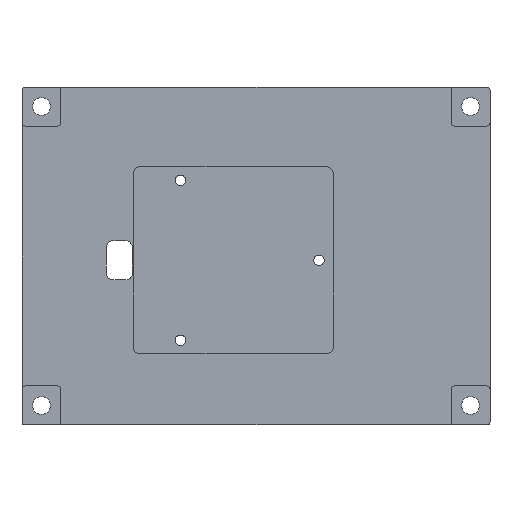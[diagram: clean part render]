
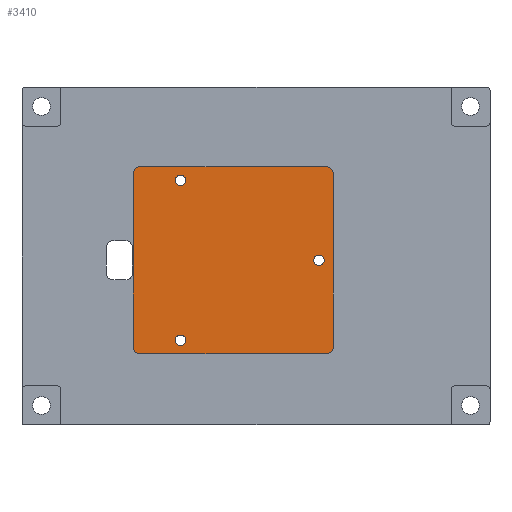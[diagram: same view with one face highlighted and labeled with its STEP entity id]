
A CAD part, front view. The second image highlights one B-rep face of the part: STEP entity #3410.
In plain terms, the highlighted planar face has unit normal (0, -1, 0).
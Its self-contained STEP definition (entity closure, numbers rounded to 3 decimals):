
#37 = EDGE_LOOP ( 'NONE', ( #4181, #782 ) ) ;
#52 = ORIENTED_EDGE ( 'NONE', *, *, #8957, .T. ) ;
#62 = DIRECTION ( 'NONE',  ( 0., 0., -1. ) ) ;
#189 = DIRECTION ( 'NONE',  ( 0., -1., 0. ) ) ;
#199 = CARTESIAN_POINT ( 'NONE',  ( 24.384, -3.78, 13.84 ) ) ;
#334 = DIRECTION ( 'NONE',  ( 0., -1., 0. ) ) ;
#448 = DIRECTION ( 'NONE',  ( 0., 0., -1. ) ) ;
#479 = EDGE_CURVE ( 'NONE', #5023, #3452, #1287, .T. ) ;
#495 = CARTESIAN_POINT ( 'NONE',  ( 47.869, -3.78, 38.722 ) ) ;
#611 = DIRECTION ( 'NONE',  ( 0., 0., 1. ) ) ;
#633 = CARTESIAN_POINT ( 'NONE',  ( 47.869, -3.78, 11.953 ) ) ;
#648 = AXIS2_PLACEMENT_3D ( 'NONE', #3180, #334, #2365 ) ;
#719 = ORIENTED_EDGE ( 'NONE', *, *, #6838, .F. ) ;
#782 = ORIENTED_EDGE ( 'NONE', *, *, #6116, .F. ) ;
#1203 = CIRCLE ( 'NONE', #9953, 0.8 ) ;
#1209 = CIRCLE ( 'NONE', #648, 1. ) ;
#1228 = VECTOR ( 'NONE', #5029, 1000. ) ;
#1232 = CARTESIAN_POINT ( 'NONE',  ( 18.1, -3.78, 39.722 ) ) ;
#1287 = CIRCLE ( 'NONE', #10976, 0.8 ) ;
#1395 = ORIENTED_EDGE ( 'NONE', *, *, #479, .F. ) ;
#1483 = VERTEX_POINT ( 'NONE', #1232 ) ;
#1491 = CARTESIAN_POINT ( 'NONE',  ( 24.384, -3.78, 36.835 ) ) ;
#1536 = EDGE_CURVE ( 'NONE', #6930, #1483, #9282, .T. ) ;
#1537 = VERTEX_POINT ( 'NONE', #4814 ) ;
#1587 = DIRECTION ( 'NONE',  ( 0., -1., 0. ) ) ;
#1647 = ORIENTED_EDGE ( 'NONE', *, *, #3834, .T. ) ;
#1743 = DIRECTION ( 'NONE',  ( 0., -1., 0. ) ) ;
#1823 = EDGE_CURVE ( 'NONE', #10105, #1844, #9471, .T. ) ;
#1844 = VERTEX_POINT ( 'NONE', #1491 ) ;
#1989 = AXIS2_PLACEMENT_3D ( 'NONE', #9283, #7406, #2918 ) ;
#2051 = CARTESIAN_POINT ( 'NONE',  ( 17.1, -3.78, 38.722 ) ) ;
#2197 = CARTESIAN_POINT ( 'NONE',  ( 46.869, -3.78, 38.722 ) ) ;
#2295 = DIRECTION ( 'NONE',  ( 0., -1., 0. ) ) ;
#2365 = DIRECTION ( 'NONE',  ( 0., 0., -1. ) ) ;
#2459 = EDGE_CURVE ( 'NONE', #1844, #10105, #8898, .T. ) ;
#2597 = EDGE_CURVE ( 'NONE', #1483, #4300, #7583, .T. ) ;
#2680 = VECTOR ( 'NONE', #611, 1000. ) ;
#2875 = CARTESIAN_POINT ( 'NONE',  ( 24.384, -3.78, 13.04 ) ) ;
#2912 = EDGE_CURVE ( 'NONE', #1537, #6930, #8644, .T. ) ;
#2918 = DIRECTION ( 'NONE',  ( 0., 0., -1. ) ) ;
#2931 = DIRECTION ( 'NONE',  ( 0., 0., -1. ) ) ;
#2936 = DIRECTION ( 'NONE',  ( 0., 0., -1. ) ) ;
#3053 = AXIS2_PLACEMENT_3D ( 'NONE', #8647, #1587, #5300 ) ;
#3180 = CARTESIAN_POINT ( 'NONE',  ( 46.869, -3.78, 11.953 ) ) ;
#3410 = ADVANCED_FACE ( 'NONE', ( #5997, #6941, #11504, #6174 ), #9584, .T. ) ;
#3422 = ORIENTED_EDGE ( 'NONE', *, *, #2597, .T. ) ;
#3452 = VERTEX_POINT ( 'NONE', #11329 ) ;
#3461 = VECTOR ( 'NONE', #10093, 1000. ) ;
#3497 = ORIENTED_EDGE ( 'NONE', *, *, #7760, .T. ) ;
#3579 = EDGE_CURVE ( 'NONE', #6438, #7136, #4173, .T. ) ;
#3820 = AXIS2_PLACEMENT_3D ( 'NONE', #10055, #189, #2931 ) ;
#3834 = EDGE_CURVE ( 'NONE', #5718, #7947, #1209, .T. ) ;
#4173 = CIRCLE ( 'NONE', #5274, 1. ) ;
#4181 = ORIENTED_EDGE ( 'NONE', *, *, #5250, .F. ) ;
#4300 = VERTEX_POINT ( 'NONE', #4691 ) ;
#4463 = CARTESIAN_POINT ( 'NONE',  ( 24.384, -3.78, 12.24 ) ) ;
#4560 = CARTESIAN_POINT ( 'NONE',  ( 45.684, -3.78, 24.537 ) ) ;
#4688 = EDGE_CURVE ( 'NONE', #7947, #1537, #8498, .T. ) ;
#4691 = CARTESIAN_POINT ( 'NONE',  ( 17.1, -3.78, 38.722 ) ) ;
#4814 = CARTESIAN_POINT ( 'NONE',  ( 47.869, -3.78, 38.722 ) ) ;
#4836 = DIRECTION ( 'NONE',  ( 0., -1., 0. ) ) ;
#4905 = AXIS2_PLACEMENT_3D ( 'NONE', #9743, #1743, #5287 ) ;
#5023 = VERTEX_POINT ( 'NONE', #4560 ) ;
#5029 = DIRECTION ( 'NONE',  ( -1., 0., 0. ) ) ;
#5100 = CARTESIAN_POINT ( 'NONE',  ( 18.1, -3.78, 11.953 ) ) ;
#5250 = EDGE_CURVE ( 'NONE', #11254, #7630, #6401, .T. ) ;
#5274 = AXIS2_PLACEMENT_3D ( 'NONE', #5100, #8869, #8695 ) ;
#5287 = DIRECTION ( 'NONE',  ( 0., 0., -1. ) ) ;
#5300 = DIRECTION ( 'NONE',  ( 0., 0., -1. ) ) ;
#5471 = CARTESIAN_POINT ( 'NONE',  ( 24.384, -3.78, 37.635 ) ) ;
#5518 = AXIS2_PLACEMENT_3D ( 'NONE', #5471, #7178, #62 ) ;
#5712 = AXIS2_PLACEMENT_3D ( 'NONE', #10239, #2295, #6775 ) ;
#5718 = VERTEX_POINT ( 'NONE', #9199 ) ;
#5909 = CARTESIAN_POINT ( 'NONE',  ( 18.1, -3.78, 39.722 ) ) ;
#5997 = FACE_BOUND ( 'NONE', #10785, .T. ) ;
#6116 = EDGE_CURVE ( 'NONE', #7630, #11254, #1203, .T. ) ;
#6174 = FACE_OUTER_BOUND ( 'NONE', #10698, .T. ) ;
#6401 = CIRCLE ( 'NONE', #4905, 0.8 ) ;
#6438 = VERTEX_POINT ( 'NONE', #6753 ) ;
#6678 = DIRECTION ( 'NONE',  ( 0., -1., 0. ) ) ;
#6708 = CARTESIAN_POINT ( 'NONE',  ( 46.869, -3.78, 39.722 ) ) ;
#6711 = ORIENTED_EDGE ( 'NONE', *, *, #2459, .F. ) ;
#6753 = CARTESIAN_POINT ( 'NONE',  ( 17.1, -3.78, 11.953 ) ) ;
#6775 = DIRECTION ( 'NONE',  ( 0., 0., -1. ) ) ;
#6838 = EDGE_CURVE ( 'NONE', #3452, #5023, #6985, .T. ) ;
#6930 = VERTEX_POINT ( 'NONE', #6708 ) ;
#6941 = FACE_BOUND ( 'NONE', #11539, .T. ) ;
#6985 = CIRCLE ( 'NONE', #3820, 0.8 ) ;
#7136 = VERTEX_POINT ( 'NONE', #9169 ) ;
#7178 = DIRECTION ( 'NONE',  ( 0., -1., 0. ) ) ;
#7287 = ORIENTED_EDGE ( 'NONE', *, *, #2912, .T. ) ;
#7314 = CARTESIAN_POINT ( 'NONE',  ( 24.384, -3.78, 38.435 ) ) ;
#7406 = DIRECTION ( 'NONE',  ( 0., -1., 0. ) ) ;
#7427 = DIRECTION ( 'NONE',  ( 0., -1., 0. ) ) ;
#7583 = CIRCLE ( 'NONE', #1989, 1. ) ;
#7630 = VERTEX_POINT ( 'NONE', #4463 ) ;
#7664 = ORIENTED_EDGE ( 'NONE', *, *, #1823, .F. ) ;
#7760 = EDGE_CURVE ( 'NONE', #7136, #5718, #10150, .T. ) ;
#7947 = VERTEX_POINT ( 'NONE', #633 ) ;
#8189 = DIRECTION ( 'NONE',  ( 0., 0., -1. ) ) ;
#8498 = LINE ( 'NONE', #495, #2680 ) ;
#8644 = CIRCLE ( 'NONE', #9581, 1. ) ;
#8647 = CARTESIAN_POINT ( 'NONE',  ( 46.869, -3.78, 38.722 ) ) ;
#8695 = DIRECTION ( 'NONE',  ( 0., 0., -1. ) ) ;
#8869 = DIRECTION ( 'NONE',  ( 0., -1., 0. ) ) ;
#8898 = CIRCLE ( 'NONE', #5518, 0.8 ) ;
#8957 = EDGE_CURVE ( 'NONE', #4300, #6438, #9881, .T. ) ;
#9169 = CARTESIAN_POINT ( 'NONE',  ( 18.1, -3.78, 10.953 ) ) ;
#9199 = CARTESIAN_POINT ( 'NONE',  ( 46.869, -3.78, 10.953 ) ) ;
#9220 = CARTESIAN_POINT ( 'NONE',  ( 18.1, -3.78, 10.953 ) ) ;
#9282 = LINE ( 'NONE', #5909, #1228 ) ;
#9283 = CARTESIAN_POINT ( 'NONE',  ( 18.1, -3.78, 38.722 ) ) ;
#9471 = CIRCLE ( 'NONE', #5712, 0.8 ) ;
#9581 = AXIS2_PLACEMENT_3D ( 'NONE', #2197, #6678, #448 ) ;
#9584 = PLANE ( 'NONE',  #3053 ) ;
#9743 = CARTESIAN_POINT ( 'NONE',  ( 24.384, -3.78, 13.04 ) ) ;
#9871 = ORIENTED_EDGE ( 'NONE', *, *, #4688, .T. ) ;
#9881 = LINE ( 'NONE', #2051, #10620 ) ;
#9953 = AXIS2_PLACEMENT_3D ( 'NONE', #2875, #7427, #10999 ) ;
#10055 = CARTESIAN_POINT ( 'NONE',  ( 45.684, -3.78, 25.337 ) ) ;
#10063 = CARTESIAN_POINT ( 'NONE',  ( 45.684, -3.78, 25.337 ) ) ;
#10064 = ORIENTED_EDGE ( 'NONE', *, *, #1536, .T. ) ;
#10093 = DIRECTION ( 'NONE',  ( 1., 0., 0. ) ) ;
#10105 = VERTEX_POINT ( 'NONE', #7314 ) ;
#10150 = LINE ( 'NONE', #9220, #3461 ) ;
#10239 = CARTESIAN_POINT ( 'NONE',  ( 24.384, -3.78, 37.635 ) ) ;
#10493 = ORIENTED_EDGE ( 'NONE', *, *, #3579, .T. ) ;
#10620 = VECTOR ( 'NONE', #8189, 1000. ) ;
#10698 = EDGE_LOOP ( 'NONE', ( #7287, #10064, #3422, #52, #10493, #3497, #1647, #9871 ) ) ;
#10785 = EDGE_LOOP ( 'NONE', ( #719, #1395 ) ) ;
#10976 = AXIS2_PLACEMENT_3D ( 'NONE', #10063, #4836, #2936 ) ;
#10999 = DIRECTION ( 'NONE',  ( 0., 0., -1. ) ) ;
#11254 = VERTEX_POINT ( 'NONE', #199 ) ;
#11329 = CARTESIAN_POINT ( 'NONE',  ( 45.684, -3.78, 26.137 ) ) ;
#11504 = FACE_BOUND ( 'NONE', #37, .T. ) ;
#11539 = EDGE_LOOP ( 'NONE', ( #7664, #6711 ) ) ;
